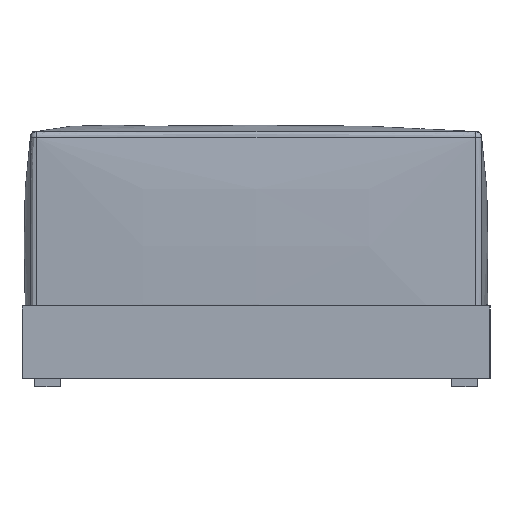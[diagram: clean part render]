
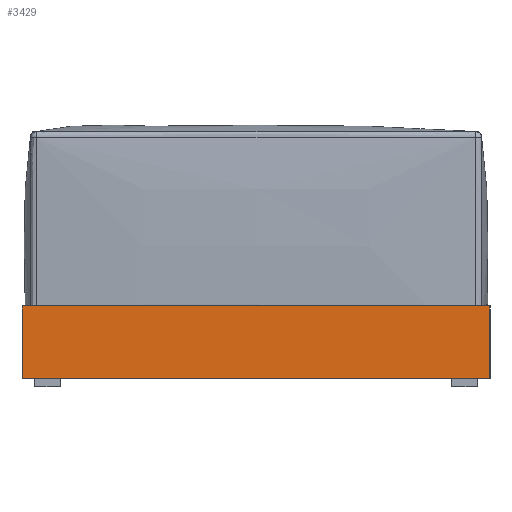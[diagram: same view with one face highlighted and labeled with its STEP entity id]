
A CAD part, left-side view. The second image highlights one B-rep face of the part: STEP entity #3429.
In plain terms, the highlighted planar face has unit normal (-1, 0, 0).
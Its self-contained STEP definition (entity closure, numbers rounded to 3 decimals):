
#121=PLANE('',#3843);
#451=LINE('',#14663,#671);
#452=LINE('',#14665,#672);
#453=LINE('',#14667,#673);
#454=LINE('',#14668,#674);
#671=VECTOR('',#4469,10.);
#672=VECTOR('',#4470,10.);
#673=VECTOR('',#4471,10.);
#674=VECTOR('',#4472,10.);
#1021=FACE_OUTER_BOUND('',#1273,.T.);
#1273=EDGE_LOOP('',(#2877,#2878,#2879,#2880));
#1661=VERTEX_POINT('',#14661);
#1662=VERTEX_POINT('',#14662);
#1663=VERTEX_POINT('',#14664);
#1664=VERTEX_POINT('',#14666);
#2085=EDGE_CURVE('',#1661,#1662,#451,.T.);
#2086=EDGE_CURVE('',#1661,#1663,#452,.T.);
#2087=EDGE_CURVE('',#1664,#1663,#453,.T.);
#2088=EDGE_CURVE('',#1662,#1664,#454,.T.);
#2877=ORIENTED_EDGE('',*,*,#2085,.F.);
#2878=ORIENTED_EDGE('',*,*,#2086,.T.);
#2879=ORIENTED_EDGE('',*,*,#2087,.F.);
#2880=ORIENTED_EDGE('',*,*,#2088,.F.);
#3429=ADVANCED_FACE('',(#1021),#121,.T.);
#3843=AXIS2_PLACEMENT_3D('',#14660,#4467,#4468);
#4467=DIRECTION('center_axis',(-1.,0.,0.));
#4468=DIRECTION('ref_axis',(0.,-1.,0.));
#4469=DIRECTION('',(0.,1.,0.));
#4470=DIRECTION('',(0.,0.,1.));
#4471=DIRECTION('',(0.,-1.,0.));
#4472=DIRECTION('',(0.,0.,1.));
#14660=CARTESIAN_POINT('Origin',(-1500.,550.,0.));
#14661=CARTESIAN_POINT('',(-1500.,-550.,0.));
#14662=CARTESIAN_POINT('',(-1500.,550.,0.));
#14663=CARTESIAN_POINT('',(-1500.,-550.,0.));
#14664=CARTESIAN_POINT('',(-1500.,-550.,170.));
#14665=CARTESIAN_POINT('',(-1500.,-550.,0.));
#14666=CARTESIAN_POINT('',(-1500.,550.,170.));
#14667=CARTESIAN_POINT('',(-1500.,-550.,170.));
#14668=CARTESIAN_POINT('',(-1500.,550.,0.));
